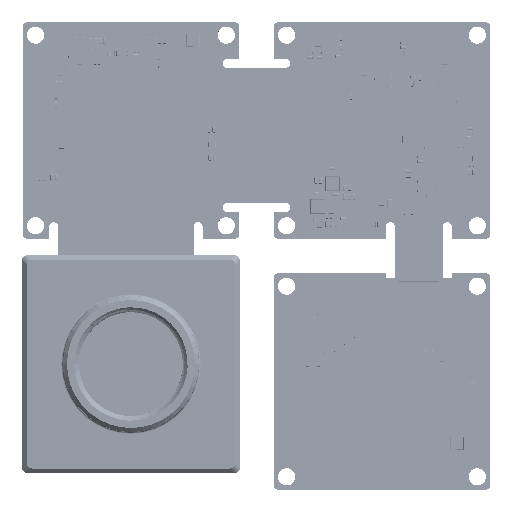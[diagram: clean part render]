
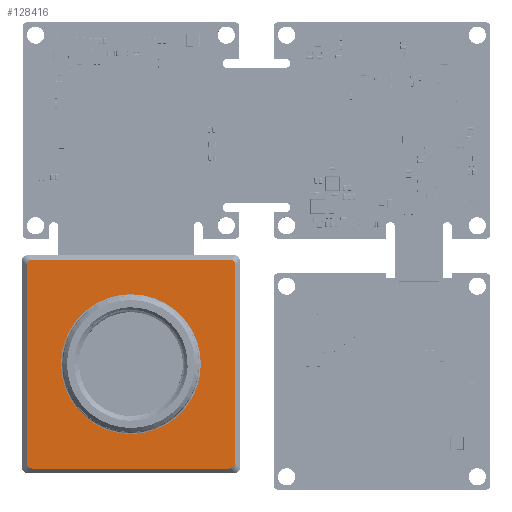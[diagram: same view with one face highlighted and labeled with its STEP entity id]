
A CAD part, top view. The second image highlights one B-rep face of the part: STEP entity #128416.
In plain terms, the highlighted planar face has unit normal (0, 0, 1).
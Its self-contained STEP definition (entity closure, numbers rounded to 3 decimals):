
#1034 = ORIENTED_EDGE ( 'NONE', *, *, #131367, .T. ) ;
#13245 = VERTEX_POINT ( 'NONE', #604320 ) ;
#18884 = ORIENTED_EDGE ( 'NONE', *, *, #546773, .T. ) ;
#41454 = DIRECTION ( 'NONE',  ( 0., 0., -1. ) ) ;
#47665 = ORIENTED_EDGE ( 'NONE', *, *, #546655, .T. ) ;
#48332 = ORIENTED_EDGE ( 'NONE', *, *, #347884, .T. ) ;
#69508 = DIRECTION ( 'NONE',  ( 0., -1., 0. ) ) ;
#93499 = VECTOR ( 'NONE', #562737, 1000. ) ;
#96435 = DIRECTION ( 'NONE',  ( 0., 0., -1. ) ) ;
#100014 = VERTEX_POINT ( 'NONE', #214961 ) ;
#104353 = FACE_BOUND ( 'NONE', #292196, .T. ) ;
#107777 = CARTESIAN_POINT ( 'NONE',  ( -11.5, 0., 8. ) ) ;
#115302 = CARTESIAN_POINT ( 'NONE',  ( 11.5, 10.899, 8. ) ) ;
#115457 = VERTEX_POINT ( 'NONE', #416935 ) ;
#120073 =( BOUNDED_CURVE ( )  B_SPLINE_CURVE ( 3, ( #558181, #124608, #465229, #220064 ),
 .UNSPECIFIED., .F., .F. ) 
 B_SPLINE_CURVE_WITH_KNOTS ( ( 4, 4 ),
 ( 2.618, 3.665 ),
 .UNSPECIFIED. ) 
 CURVE ( )  GEOMETRIC_REPRESENTATION_ITEM ( )  RATIONAL_B_SPLINE_CURVE ( ( 1., 0.911, 0.911, 1. ) ) 
 REPRESENTATION_ITEM ( '' )  );
#124608 = CARTESIAN_POINT ( 'NONE',  ( 11.28, -11.5, 8. ) ) ;
#124770 = ORIENTED_EDGE ( 'NONE', *, *, #443886, .T. ) ;
#128416 = ADVANCED_FACE ( 'NONE', ( #104353, #172550 ), #521670, .F. ) ;
#129123 = CARTESIAN_POINT ( 'NONE',  ( 11.5, 0., 8. ) ) ;
#131367 = EDGE_CURVE ( 'NONE', #476100, #189991, #120073, .T. ) ;
#157753 = CARTESIAN_POINT ( 'NONE',  ( 10.899, 11.5, 8. ) ) ;
#171185 = CIRCLE ( 'NONE', #541085, 7.7 ) ;
#171376 = CARTESIAN_POINT ( 'NONE',  ( 11.5, -10.899, 8. ) ) ;
#172550 = FACE_OUTER_BOUND ( 'NONE', #276332, .T. ) ;
#186627 =( BOUNDED_CURVE ( )  B_SPLINE_CURVE ( 3, ( #302211, #614693, #523604, #583410 ),
 .UNSPECIFIED., .F., .F. ) 
 B_SPLINE_CURVE_WITH_KNOTS ( ( 4, 4 ),
 ( 5.76, 6.807 ),
 .UNSPECIFIED. ) 
 CURVE ( )  GEOMETRIC_REPRESENTATION_ITEM ( )  RATIONAL_B_SPLINE_CURVE ( ( 1., 0.911, 0.911, 1. ) ) 
 REPRESENTATION_ITEM ( '' )  );
#189991 = VERTEX_POINT ( 'NONE', #171376 ) ;
#196272 = CARTESIAN_POINT ( 'NONE',  ( -11.5, -11.28, 8. ) ) ;
#205943 = VERTEX_POINT ( 'NONE', #416774 ) ;
#206346 = CARTESIAN_POINT ( 'NONE',  ( 10.899, -11.5, 8. ) ) ;
#206494 = LINE ( 'NONE', #614400, #267162 ) ;
#206900 = CARTESIAN_POINT ( 'NONE',  ( -10.899, 11.5, 8. ) ) ;
#207267 = LINE ( 'NONE', #129123, #93499 ) ;
#214961 = CARTESIAN_POINT ( 'NONE',  ( -11.5, -10.899, 8. ) ) ;
#220064 = CARTESIAN_POINT ( 'NONE',  ( 11.5, -10.899, 8. ) ) ;
#227939 = CARTESIAN_POINT ( 'NONE',  ( 0., 0., 8. ) ) ;
#237971 = VERTEX_POINT ( 'NONE', #206900 ) ;
#252630 = VERTEX_POINT ( 'NONE', #307449 ) ;
#267162 = VECTOR ( 'NONE', #428241, 1000. ) ;
#276332 = EDGE_LOOP ( 'NONE', ( #526421, #1034, #124770, #47665, #432135, #18884, #390098, #360857 ) ) ;
#292196 = EDGE_LOOP ( 'NONE', ( #48332 ) ) ;
#295693 = CARTESIAN_POINT ( 'NONE',  ( -10.899, -11.5, 8. ) ) ;
#302211 = CARTESIAN_POINT ( 'NONE',  ( -10.899, 11.5, 8. ) ) ;
#304602 = AXIS2_PLACEMENT_3D ( 'NONE', #227939, #41454, #616964 ) ;
#305493 = DIRECTION ( 'NONE',  ( 1., 0., 0. ) ) ;
#307449 = CARTESIAN_POINT ( 'NONE',  ( -10.899, -11.5, 8. ) ) ;
#308474 = CARTESIAN_POINT ( 'NONE',  ( 11.5, 10.899, 8. ) ) ;
#309647 = CARTESIAN_POINT ( 'NONE',  ( 0., -11.5, 8. ) ) ;
#344240 = CARTESIAN_POINT ( 'NONE',  ( -11.28, -11.5, 8. ) ) ;
#347884 = EDGE_CURVE ( 'NONE', #13245, #13245, #171185, .T. ) ;
#358612 = CARTESIAN_POINT ( 'NONE',  ( 11.5, 11.28, 8. ) ) ;
#360857 = ORIENTED_EDGE ( 'NONE', *, *, #613661, .T. ) ;
#386401 = CARTESIAN_POINT ( 'NONE',  ( 0., 0., 8. ) ) ;
#390098 = ORIENTED_EDGE ( 'NONE', *, *, #600601, .T. ) ;
#393460 = VERTEX_POINT ( 'NONE', #308474 ) ;
#398966 = CARTESIAN_POINT ( 'NONE',  ( 11.28, 11.5, 8. ) ) ;
#412945 = VECTOR ( 'NONE', #69508, 1000. ) ;
#416774 = CARTESIAN_POINT ( 'NONE',  ( 10.899, 11.5, 8. ) ) ;
#416935 = CARTESIAN_POINT ( 'NONE',  ( -11.5, 10.899, 8. ) ) ;
#418353 = EDGE_CURVE ( 'NONE', #252630, #476100, #518790, .T. ) ;
#428241 = DIRECTION ( 'NONE',  ( -1., 0., 0. ) ) ;
#432135 = ORIENTED_EDGE ( 'NONE', *, *, #614025, .T. ) ;
#435037 = DIRECTION ( 'NONE',  ( -1., 0., 0. ) ) ;
#443886 = EDGE_CURVE ( 'NONE', #189991, #393460, #207267, .T. ) ;
#465229 = CARTESIAN_POINT ( 'NONE',  ( 11.5, -11.28, 8. ) ) ;
#469029 =( BOUNDED_CURVE ( )  B_SPLINE_CURVE ( 3, ( #485973, #196272, #344240, #295693 ),
 .UNSPECIFIED., .F., .F. ) 
 B_SPLINE_CURVE_WITH_KNOTS ( ( 4, 4 ),
 ( 5.76, 6.807 ),
 .UNSPECIFIED. ) 
 CURVE ( )  GEOMETRIC_REPRESENTATION_ITEM ( )  RATIONAL_B_SPLINE_CURVE ( ( 1., 0.911, 0.911, 1. ) ) 
 REPRESENTATION_ITEM ( '' )  );
#476100 = VERTEX_POINT ( 'NONE', #206346 ) ;
#485973 = CARTESIAN_POINT ( 'NONE',  ( -11.5, -10.899, 8. ) ) ;
#496079 = LINE ( 'NONE', #107777, #412945 ) ;
#503715 = VECTOR ( 'NONE', #305493, 1000. ) ;
#518790 = LINE ( 'NONE', #309647, #503715 ) ;
#521670 = PLANE ( 'NONE',  #304602 ) ;
#523604 = CARTESIAN_POINT ( 'NONE',  ( -11.5, 11.28, 8. ) ) ;
#526421 = ORIENTED_EDGE ( 'NONE', *, *, #418353, .T. ) ;
#541085 = AXIS2_PLACEMENT_3D ( 'NONE', #386401, #96435, #435037 ) ;
#546655 = EDGE_CURVE ( 'NONE', #393460, #205943, #624871, .T. ) ;
#546773 = EDGE_CURVE ( 'NONE', #237971, #115457, #186627, .T. ) ;
#558181 = CARTESIAN_POINT ( 'NONE',  ( 10.899, -11.5, 8. ) ) ;
#562737 = DIRECTION ( 'NONE',  ( 0., 1., 0. ) ) ;
#583410 = CARTESIAN_POINT ( 'NONE',  ( -11.5, 10.899, 8. ) ) ;
#600601 = EDGE_CURVE ( 'NONE', #115457, #100014, #496079, .T. ) ;
#604320 = CARTESIAN_POINT ( 'NONE',  ( -7.7, 0., 8. ) ) ;
#613661 = EDGE_CURVE ( 'NONE', #100014, #252630, #469029, .T. ) ;
#614025 = EDGE_CURVE ( 'NONE', #205943, #237971, #206494, .T. ) ;
#614400 = CARTESIAN_POINT ( 'NONE',  ( 0., 11.5, 8. ) ) ;
#614693 = CARTESIAN_POINT ( 'NONE',  ( -11.28, 11.5, 8. ) ) ;
#616964 = DIRECTION ( 'NONE',  ( -1., 0., 0. ) ) ;
#624871 =( BOUNDED_CURVE ( )  B_SPLINE_CURVE ( 3, ( #115302, #358612, #398966, #157753 ),
 .UNSPECIFIED., .F., .F. ) 
 B_SPLINE_CURVE_WITH_KNOTS ( ( 4, 4 ),
 ( 2.618, 3.665 ),
 .UNSPECIFIED. ) 
 CURVE ( )  GEOMETRIC_REPRESENTATION_ITEM ( )  RATIONAL_B_SPLINE_CURVE ( ( 1., 0.911, 0.911, 1. ) ) 
 REPRESENTATION_ITEM ( '' )  );
